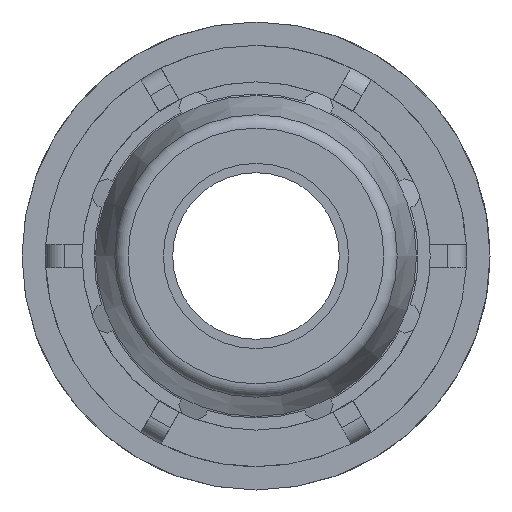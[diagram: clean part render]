
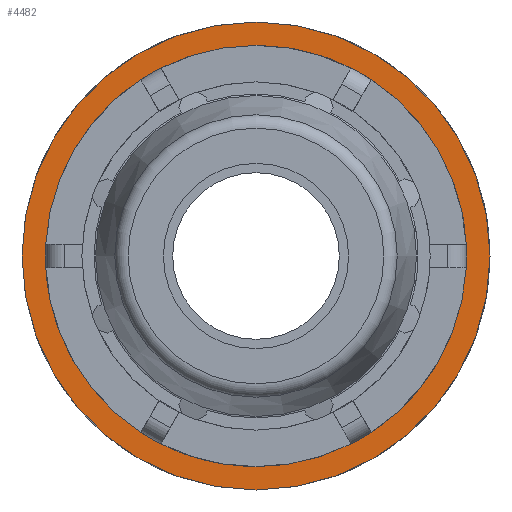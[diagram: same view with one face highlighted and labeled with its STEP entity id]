
A CAD part, left-side view. The second image highlights one B-rep face of the part: STEP entity #4482.
In plain terms, the highlighted planar face has unit normal (-1, 0, 0).
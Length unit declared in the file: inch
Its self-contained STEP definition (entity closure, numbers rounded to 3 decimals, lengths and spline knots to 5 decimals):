
#48=FACE_BOUND('',#607,.T.);
#382=FACE_OUTER_BOUND('',#606,.T.);
#606=EDGE_LOOP('',(#3669,#3670));
#607=EDGE_LOOP('',(#3671,#3672));
#682=CIRCLE('',#4612,2.99);
#683=CIRCLE('',#4613,2.99);
#826=CIRCLE('',#4905,2.392);
#827=CIRCLE('',#4906,2.392);
#1670=VERTEX_POINT('',#6470);
#1671=VERTEX_POINT('',#6472);
#1958=VERTEX_POINT('',#7699);
#1959=VERTEX_POINT('',#7700);
#2134=EDGE_CURVE('',#1670,#1671,#682,.T.);
#2135=EDGE_CURVE('',#1671,#1670,#683,.T.);
#2579=EDGE_CURVE('',#1958,#1959,#826,.T.);
#2580=EDGE_CURVE('',#1959,#1958,#827,.T.);
#3669=ORIENTED_EDGE('',*,*,#2135,.F.);
#3670=ORIENTED_EDGE('',*,*,#2134,.F.);
#3671=ORIENTED_EDGE('',*,*,#2579,.T.);
#3672=ORIENTED_EDGE('',*,*,#2580,.T.);
#4059=PLANE('',#4904);
#4482=ADVANCED_FACE('',(#382,#48),#4059,.T.);
#4612=AXIS2_PLACEMENT_3D('',#6473,#5210,#5211);
#4613=AXIS2_PLACEMENT_3D('',#6474,#5212,#5213);
#4904=AXIS2_PLACEMENT_3D('',#7698,#6012,#6013);
#4905=AXIS2_PLACEMENT_3D('',#7701,#6014,#6015);
#4906=AXIS2_PLACEMENT_3D('',#7702,#6016,#6017);
#5210=DIRECTION('center_axis',(1.,0.,0.));
#5211=DIRECTION('ref_axis',(0.,0.,-1.));
#5212=DIRECTION('center_axis',(1.,0.,0.));
#5213=DIRECTION('ref_axis',(0.,0.,-1.));
#6012=DIRECTION('center_axis',(-1.,0.,0.));
#6013=DIRECTION('ref_axis',(0.,0.,1.));
#6014=DIRECTION('center_axis',(1.,0.,0.));
#6015=DIRECTION('ref_axis',(0.,0.,-1.));
#6016=DIRECTION('center_axis',(1.,0.,0.));
#6017=DIRECTION('ref_axis',(0.,0.,-1.));
#6470=CARTESIAN_POINT('',(3.56312,-2.99,0.));
#6472=CARTESIAN_POINT('',(3.56312,0.,2.99));
#6473=CARTESIAN_POINT('Origin',(3.56312,0.,0.));
#6474=CARTESIAN_POINT('Origin',(3.56312,0.,0.));
#7698=CARTESIAN_POINT('Origin',(3.56312,2.99,0.));
#7699=CARTESIAN_POINT('',(3.56312,2.392,0.));
#7700=CARTESIAN_POINT('',(3.56312,-2.392,0.));
#7701=CARTESIAN_POINT('Origin',(3.56312,0.,0.));
#7702=CARTESIAN_POINT('Origin',(3.56312,0.,0.));
